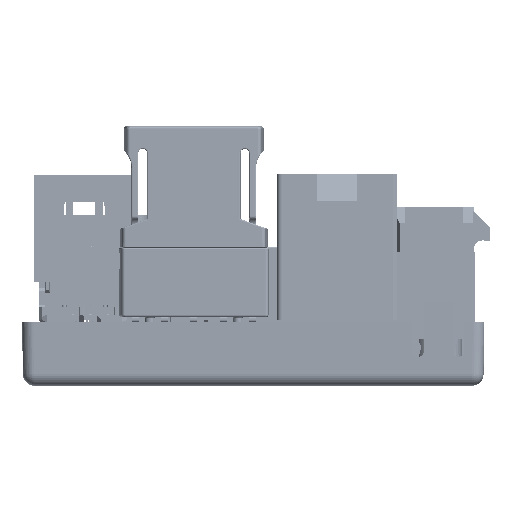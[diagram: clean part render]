
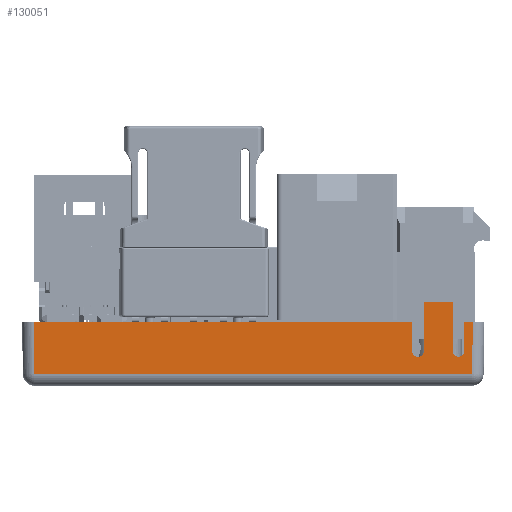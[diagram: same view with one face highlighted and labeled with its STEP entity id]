
A CAD part, left-side view. The second image highlights one B-rep face of the part: STEP entity #130051.
In plain terms, the highlighted planar face has unit normal (-1, 0, -0.018).
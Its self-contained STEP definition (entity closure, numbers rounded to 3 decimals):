
#7468=DIRECTION('',(-0.017,0.,1.));
#7469=VECTOR('',#7468,2.5);
#7470=CARTESIAN_POINT('',(-3.956,-29.75,
3.));
#7471=LINE('',#7470,#7469);
#8174=DIRECTION('',(0.017,0.,-1.));
#8175=VECTOR('',#8174,2.5);
#8176=CARTESIAN_POINT('',(-4.,-34.25,
5.5));
#8177=LINE('',#8176,#8175);
#8268=DIRECTION('',(-0.017,0.,1.));
#8269=VECTOR('',#8268,4.201);
#8270=CARTESIAN_POINT('',(-3.956,-33.25,
3.));
#8271=LINE('',#8270,#8269);
#8284=CARTESIAN_POINT('',(-3.956,-34.25,
3.));
#8285=CARTESIAN_POINT('',(-3.955,-34.25,
2.94));
#8286=CARTESIAN_POINT('',(-3.953,-34.23,
2.827));
#8287=CARTESIAN_POINT('',(-3.951,-34.141,
2.672));
#8288=CARTESIAN_POINT('',(-3.949,-34.007,
2.559));
#8289=CARTESIAN_POINT('',(-3.948,-33.84,
2.498));
#8290=CARTESIAN_POINT('',(-3.948,-33.663,
2.497));
#8291=CARTESIAN_POINT('',(-3.949,-33.497,
2.557));
#8292=CARTESIAN_POINT('',(-3.951,-33.361,
2.669));
#8293=CARTESIAN_POINT('',(-3.953,-33.27,
2.826));
#8294=CARTESIAN_POINT('',(-3.955,-33.25,
2.94));
#8295=CARTESIAN_POINT('',(-3.956,-33.25,
3.));
#8297=DIRECTION('',(0.,-1.,0.));
#8298=VECTOR('',#8297,0.75);
#8299=CARTESIAN_POINT('',(-4.,-34.25,
5.5));
#8300=LINE('',#8299,#8298);
#8301=DIRECTION('',(0.017,0.017,-1.));
#8302=VECTOR('',#8301,4.519);
#8303=CARTESIAN_POINT('',(-4.,-35.,
5.5));
#8304=LINE('',#8303,#8302);
#8305=DIRECTION('',(0.,1.,0.));
#8306=VECTOR('',#8305,37.843);
#8307=CARTESIAN_POINT('',(-3.921,-34.921,
0.983));
#8308=LINE('',#8307,#8306);
#8309=DIRECTION('',(-0.017,0.017,1.));
#8310=VECTOR('',#8309,4.519);
#8311=CARTESIAN_POINT('',(-3.921,2.921,
0.983));
#8312=LINE('',#8311,#8310);
#8313=DIRECTION('',(0.,-1.,0.));
#8314=VECTOR('',#8313,32.75);
#8315=CARTESIAN_POINT('',(-4.,3.,5.5));
#8316=LINE('',#8315,#8314);
#8775=CARTESIAN_POINT('',(-3.956,-30.75,
3.));
#8776=CARTESIAN_POINT('',(-3.955,-30.75,
2.94));
#8777=CARTESIAN_POINT('',(-3.953,-30.73,
2.827));
#8778=CARTESIAN_POINT('',(-3.951,-30.641,
2.672));
#8779=CARTESIAN_POINT('',(-3.949,-30.507,
2.559));
#8780=CARTESIAN_POINT('',(-3.948,-30.34,
2.498));
#8781=CARTESIAN_POINT('',(-3.948,-30.163,
2.497));
#8782=CARTESIAN_POINT('',(-3.949,-29.997,
2.557));
#8783=CARTESIAN_POINT('',(-3.951,-29.861,
2.669));
#8784=CARTESIAN_POINT('',(-3.953,-29.77,
2.826));
#8785=CARTESIAN_POINT('',(-3.955,-29.75,
2.94));
#8786=CARTESIAN_POINT('',(-3.956,-29.75,
3.));
#8812=DIRECTION('',(0.017,0.,-1.));
#8813=VECTOR('',#8812,4.201);
#8814=CARTESIAN_POINT('',(-4.03,-30.75,
7.2));
#8815=LINE('',#8814,#8813);
#8852=DIRECTION('',(0.,1.,0.));
#8853=VECTOR('',#8852,2.5);
#8854=CARTESIAN_POINT('',(-4.03,-33.25,
7.2));
#8855=LINE('',#8854,#8853);
#97639=CARTESIAN_POINT('',(-4.,-29.75,
5.5));
#97641=VERTEX_POINT('',#97639);
#97642=CARTESIAN_POINT('',(-4.,3.,
5.5));
#97643=VERTEX_POINT('',#97642);
#97652=CARTESIAN_POINT('',(-3.956,-29.75,
3.));
#97653=VERTEX_POINT('',#97652);
#97739=CARTESIAN_POINT('',(-4.,-34.25,
5.5));
#97740=VERTEX_POINT('',#97739);
#97741=CARTESIAN_POINT('',(-3.956,-34.25,
3.));
#97742=VERTEX_POINT('',#97741);
#97761=CARTESIAN_POINT('',(-3.956,-33.25,
3.));
#97762=VERTEX_POINT('',#97761);
#97763=CARTESIAN_POINT('',(-4.03,-33.25,
7.2));
#97764=VERTEX_POINT('',#97763);
#97773=CARTESIAN_POINT('',(-4.,-35.,
5.5));
#97774=VERTEX_POINT('',#97773);
#97775=CARTESIAN_POINT('',(-3.921,-34.921,
0.983));
#97776=VERTEX_POINT('',#97775);
#97777=CARTESIAN_POINT('',(-3.921,2.921,
0.983));
#97778=VERTEX_POINT('',#97777);
#97779=VERTEX_POINT('',#8775);
#97780=CARTESIAN_POINT('',(-4.03,-30.75,
7.2));
#97781=VERTEX_POINT('',#97780);
#130025=CARTESIAN_POINT('',(-4.,4.,
5.5));
#130026=DIRECTION('',(-1.,0.,
-0.017));
#130027=DIRECTION('',(0.017,0.,-1.));
#130028=AXIS2_PLACEMENT_3D('',#130025,#130026,#130027);
#130029=PLANE('',#130028);
#130030=ORIENTED_EDGE('',*,*,#129851,.F.);
#130032=ORIENTED_EDGE('',*,*,#130031,.T.);
#130034=ORIENTED_EDGE('',*,*,#130033,.T.);
#130036=ORIENTED_EDGE('',*,*,#130035,.T.);
#130038=ORIENTED_EDGE('',*,*,#130037,.T.);
#130039=ORIENTED_EDGE('',*,*,#128563,.T.);
#130040=ORIENTED_EDGE('',*,*,#128595,.F.);
#130042=ORIENTED_EDGE('',*,*,#130041,.F.);
#130044=ORIENTED_EDGE('',*,*,#130043,.F.);
#130046=ORIENTED_EDGE('',*,*,#130045,.F.);
#130047=ORIENTED_EDGE('',*,*,#129996,.F.);
#130048=ORIENTED_EDGE('',*,*,#130020,.F.);
#130049=EDGE_LOOP('',(#130030,#130032,#130034,#130036,#130038,#130039,#130040,
#130042,#130044,#130046,#130047,#130048));
#130050=FACE_OUTER_BOUND('',#130049,.F.);
#130051=ADVANCED_FACE('',(#130050),#130029,.T.);
#8296=B_SPLINE_CURVE_WITH_KNOTS('',3,(#8284,#8285,#8286,#8287,#8288,#8289,#8290,
#8291,#8292,#8293,#8294,#8295),.UNSPECIFIED.,.F.,.F.,(4,1,1,1,1,1,1,1,1,4),
(0.,0.111,0.222,0.333,0.444,
0.556,0.667,0.778,0.889,1.),
.UNSPECIFIED.);
#8787=B_SPLINE_CURVE_WITH_KNOTS('',3,(#8775,#8776,#8777,#8778,#8779,#8780,#8781,
#8782,#8783,#8784,#8785,#8786),.UNSPECIFIED.,.F.,.F.,(4,1,1,1,1,1,1,1,1,4),
(0.,0.111,0.222,0.333,0.444,
0.556,0.667,0.778,0.889,1.),
.UNSPECIFIED.);
#128563=EDGE_CURVE('',#97643,#97641,#8316,.T.);
#128595=EDGE_CURVE('',#97653,#97641,#7471,.T.);
#129851=EDGE_CURVE('',#97740,#97742,#8177,.T.);
#129996=EDGE_CURVE('',#97762,#97764,#8271,.T.);
#130020=EDGE_CURVE('',#97742,#97762,#8296,.T.);
#130031=EDGE_CURVE('',#97740,#97774,#8300,.T.);
#130033=EDGE_CURVE('',#97774,#97776,#8304,.T.);
#130035=EDGE_CURVE('',#97776,#97778,#8308,.T.);
#130037=EDGE_CURVE('',#97778,#97643,#8312,.T.);
#130041=EDGE_CURVE('',#97779,#97653,#8787,.T.);
#130043=EDGE_CURVE('',#97781,#97779,#8815,.T.);
#130045=EDGE_CURVE('',#97764,#97781,#8855,.T.);
